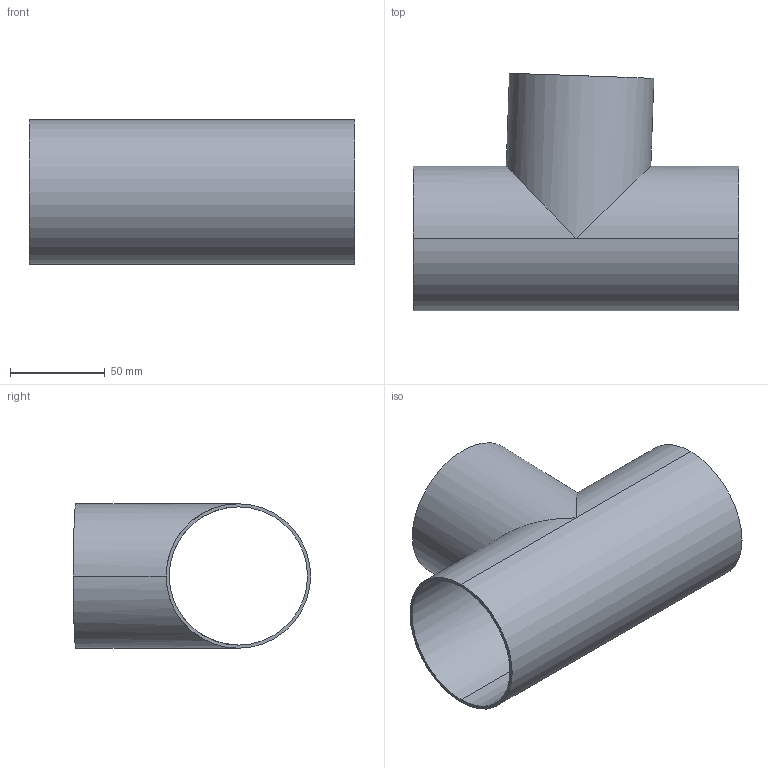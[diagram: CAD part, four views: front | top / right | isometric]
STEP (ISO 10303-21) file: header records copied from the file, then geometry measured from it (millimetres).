
FILE_DESCRIPTION (( 'STEP AP214' ), '1' );
FILE_NAME ('TE7WWW886L3.0-...STEP', '2016-05-23T04:58:14', ( 'eran' ), ( '' ), 'SwSTEP 2.0', 'SolidWorks 2016', '' );
FILE_SCHEMA (( 'AUTOMOTIVE_DESIGN' ));
Length unit declared in the file: millimetre
Products named in the file (1): TE7WWW886L3.0-..
Bounding box: 171.4 x 125.13 x 76.2 mm (x, y, z)
Volume: 81031.4 mm3; surface area: 100905.7 mm2
Topology: 2 solids, 2 shells, 15 faces, 36 edges, 24 vertices
Faces by surface type: cylinder 12, plane 3
Entity records: 827 total; most frequent: CARTESIAN_POINT 438, ORIENTED_EDGE 72, DIRECTION 68, EDGE_CURVE 36, AXIS2_PLACEMENT_3D 28, VERTEX_POINT 24, EDGE_LOOP 20, ADVANCED_FACE 15
